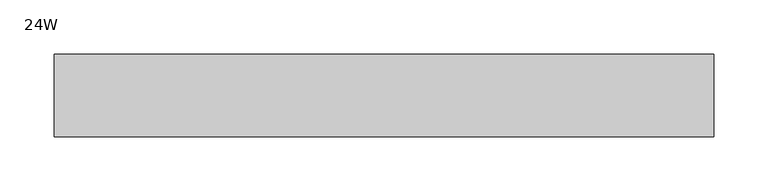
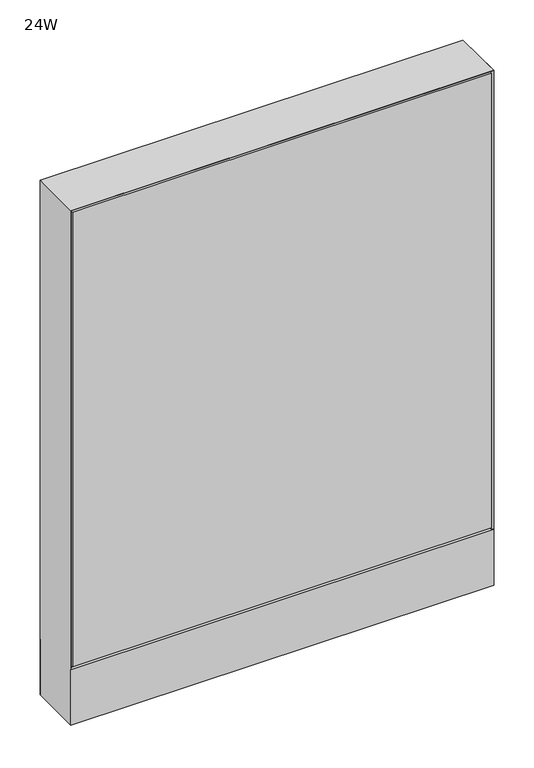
"""IFC4 building model written with IfcOpenShell, lengths in millimetres: furniture geometry, Steelcase - Montage - Frame - 31H - Enhanced Standard - Base Cavity : 24W."""

from ifc_helpers import new_model, si_unit, point, frame, frame_2d, origin, origin_with_axes, place, context, project, spatial, polyline, circle_curve, trimmed, segment, composite_curve, outline, extrude, faceted_brep, source, transform, mapped, element, save


def furniture_24w_fa96f4db(model_context):
    return source(origin(), model_context, "Body", "SolidModel", [
        extrude(outline(polyline([(3.175, 31.7500194), (3.175, 38.1000194), (606.425, 38.1000194), (606.425, 31.7500194), (3.175, 31.7500194)])), frame((0.0, 0.0, 92.075), z_axis=(0.0, 0.0, 1.0), x_axis=(1.0, 0.0, 0.0)), (0.0, 0.0, 1.0), 692.15),
        extrude(outline(polyline([(3.175, -31.7500194), (606.425, -31.7500194), (606.425, -38.1000194), (3.175, -38.1000194), (3.175, -31.7500194)])), frame((0.0, 0.0, 92.075), z_axis=(0.0, 0.0, 1.0), x_axis=(1.0, 0.0, 0.0)), (0.0, 0.0, 1.0), 692.15),
        extrude(outline(polyline([(6.350003, -31.7499985), (603.249997, -31.7499985), (609.6, -38.1000015), (0.0, -38.1000015), (6.350003, -31.7499985)])), frame((0.0, 0.0, 4.064), z_axis=(0.0, 0.0, 1.0), x_axis=(1.0, 0.0, 0.0)), (0.0, 0.0, 1.0), 84.835997),
        extrude(outline(polyline([(6.3500002, 31.7500017), (0.0, 38.1000015), (609.6, 38.1000015), (603.2500002, 31.7500017), (6.3500002, 31.7500017)])), frame((0.0, 0.0, 4.064), z_axis=(0.0, 0.0, 1.0), x_axis=(1.0, 0.0, 0.0)), (0.0, 0.0, 1.0), 84.835997),
        faceted_brep([(609.6, -38.1000015, 787.4), (0.0, -38.1000015, 787.4), (6.3500484, -31.749953, 781.0499516), (603.2499516, -31.749953, 781.0499516), (6.3500484, 31.749953, 781.0499516), (603.2499516, 31.749953, 781.0499516), (0.0, 38.1000015, 787.4), (609.6, 38.1000015, 787.4)], [[[0, 1, 2, 3]], [[3, 2, 4, 5]], [[6, 7, 5, 4]], [[1, 0, 7, 6]], [[2, 1, 6, 4]], [[0, 3, 5, 7]]]),
        extrude(outline(composite_curve([segment(trimmed(circle_curve(frame_2d((44.45, 0.0)), 15.24), [point((29.21, 0.0))], [point((59.69, 0.0))], False, "CARTESIAN"), True, "CONTINUOUS"), segment(trimmed(circle_curve(frame_2d((44.45, 0.0)), 15.24), [point((59.69, 0.0))], [point((29.21, 0.0))], False, "CARTESIAN"), True, "CONTINUOUS")], self_intersect=False)), origin_with_axes(), (0.0, 0.0, 1.0), 4.064),
        extrude(outline(composite_curve([segment(trimmed(circle_curve(frame_2d((565.15, 0.0)), 15.24), [point((549.91, 0.0))], [point((580.39, 0.0))], False, "CARTESIAN"), True, "CONTINUOUS"), segment(trimmed(circle_curve(frame_2d((565.15, 0.0)), 15.24), [point((580.39, 0.0))], [point((549.91, 0.0))], False, "CARTESIAN"), True, "CONTINUOUS")], self_intersect=False)), origin_with_axes(), (0.0, 0.0, 1.0), 4.064),
        faceted_brep([(609.6, -38.1000106, 4.064), (609.6, 38.1000015, 4.064), (609.6, 38.1000015, 787.4), (609.6, -38.1000106, 787.3999637), (0.0, 38.1000015, 4.064), (0.0, -38.1000015, 4.064), (0.0, -38.1000015, 787.4), (0.0, 38.1000015, 787.4), (603.2499879, 31.7500017, 606.425), (6.35, 31.7500017, 606.425), (6.3499998, 31.7500017, 619.125), (603.2499879, 31.7500017, 619.125), (6.35, -31.7499985, 619.125), (603.2499879, -31.7499985, 619.125), (6.350003, -31.7499985, 606.425), (603.2499879, -31.7499985, 606.425), (6.35, 31.7500015, 4.064), (6.35, -31.7500015, 4.064), (603.2499879, 31.7499894, 4.064), (603.2499879, -31.7499985, 4.064), (6.35, 31.7500015, 781.05), (6.35, -31.7500015, 781.05), (603.2499879, -31.7499985, 781.0499516), (603.2499879, 31.7499898, 781.0499516)], [[[0, 1, 2, 3]], [[4, 5, 6, 7]], [[8, 9, 10, 11]], [[11, 10, 12, 13]], [[13, 12, 14, 15]], [[9, 8, 15, 14]], [[16, 17, 5, 4]], [[18, 1, 0, 19]], [[16, 4, 7, 20, 10, 9]], [[5, 17, 14, 12, 21, 6]], [[12, 10, 20, 21]], [[17, 16, 9, 14]], [[11, 13, 22, 23]], [[18, 19, 15, 8]], [[19, 0, 3, 22, 13, 15]], [[1, 18, 8, 11, 23, 2]], [[7, 6, 21, 20]], [[3, 2, 23, 22]]]),
    ])


if __name__ == "__main__":
    model = new_model("IFC4")
    model_context = context("Model", 3, world=origin())
    ifc_project = project(units=[si_unit("LENGTHUNIT", "METRE", prefix="MILLI")], contexts=[model_context])
    site = spatial("IfcSite", under=ifc_project)
    building = spatial("IfcBuilding", under=site)
    placement = place(None, origin())
    furniture_24w_shape = furniture_24w_fa96f4db(model_context)
    element("IfcFurniture", 1, ObjectType="Steelcase - Montage - Frame - 31H - Enhanced Standard - Base Cavity : 24W", at=placement, inside=building, context=model_context, shape_type="MappedRepresentation", body=[
        mapped(furniture_24w_shape, transform((0.0, 0.0, 0.0), x_axis=(1.0, 0.0, 0.0), y_axis=(0.0, 1.0, 0.0), z_axis=(0.0, 0.0, 1.0))),
    ])
    save(model, "model.ifc")
